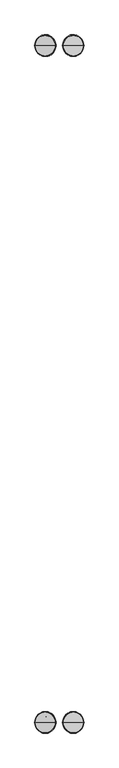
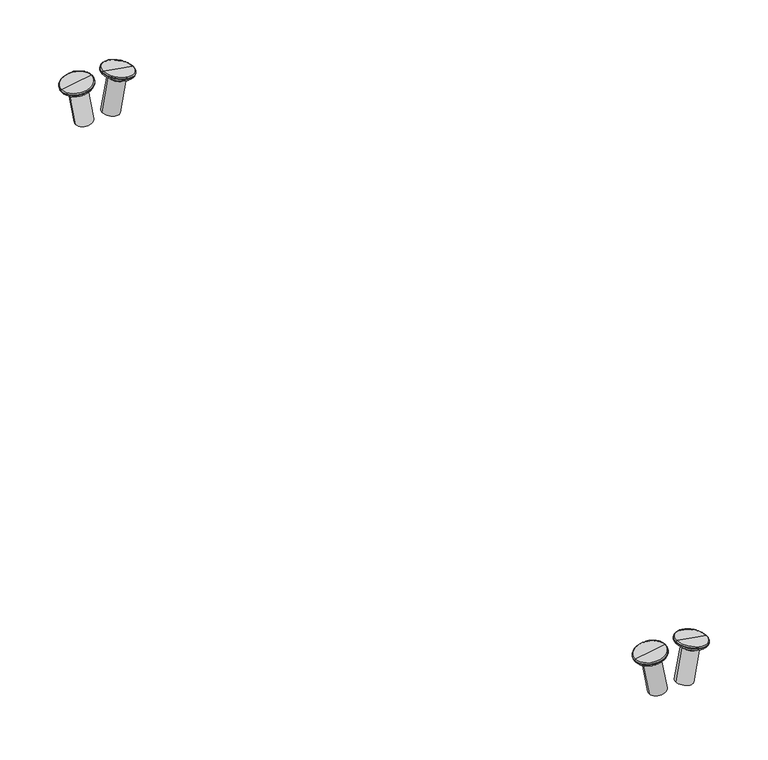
"""IFC4 building model written with IfcOpenShell, lengths in millimetres: proxy geometry, Kit Sunfix aero duo : Sunmodule Plus mono."""

from ifc_helpers import new_model, si_unit, point, frame, origin, place, context, project, spatial, circle_curve, ellipse_curve, trimmed, source, transform, mapped, element, save
from ifc_brep_helpers import plane_surface, cylinder_surface, revolved_surface, advanced_brep


def generic_models_753f09ff(model_context):
    return source(origin(), model_context, "Body", "AdvancedBrep", [
        advanced_brep(
        [(39.1763877, -550.0144087, 299.4223278), (6.8508247, -550.0144087, 305.1221968), (23.0136062, -550.0144087, 302.2722623), (39.9752239, -550.0144087, 298.2814714), (5.7099683, -550.0144087, 304.3233605), (39.8042139, -550.0144087, 297.3116251), (5.5389582, -550.0144087, 303.3535142), (37.5225011, -550.0144087, 295.7139527), (7.1366307, -550.0144087, 301.0718014), (30.735754, -550.0144087, 291.9519973), (12.2274224, -550.0144087, 295.2155155), (23.9957993, -550.0144087, 253.7278152), (5.4874678, -550.0144087, 256.9913334), (14.7416336, -550.0144087, 255.3595743)],
        [
            (0, 1, circle_curve(frame((23.0136062, -550.0144087, 302.2722623), z_axis=(0.17364817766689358, 0.0, 0.9848077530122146), x_axis=(-0.9848077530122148, 0.0, 0.1736481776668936)), 16.4121185)),
            (1, 2),
            (2, 0),
            (1, 0, circle_curve(frame((23.0136062, -550.0144087, 302.2722623), z_axis=(0.17364817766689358, 0.0, 0.9848077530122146), x_axis=(-0.9848077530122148, 0.0, 0.1736481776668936)), 16.4121185)),
            (3, 4, circle_curve(frame((22.8425961, -550.0144087, 301.302416), z_axis=(0.17364817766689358, 0.0, 0.9848077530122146), x_axis=(-0.9848077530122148, 0.0, 0.1736481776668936)), 17.3969262)),
            (4, 1, circle_curve(frame((6.8508247, -550.0144087, 303.9081227), z_axis=(0.0, 1.0000000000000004, 0.0), x_axis=(0.9396926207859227, 0.0, -0.34202014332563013)), 1.214074)),
            (0, 3, circle_curve(frame((38.7611499, -550.0144087, 298.2814714), z_axis=(0.0, 1.0000000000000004, 0.0), x_axis=(-1.0000000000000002, 0.0, 0.0)), 1.214074)),
            (4, 3, circle_curve(frame((22.8425961, -550.0144087, 301.302416), z_axis=(0.17364817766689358, 0.0, 0.9848077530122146), x_axis=(-0.9848077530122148, 0.0, 0.1736481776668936)), 17.3969262)),
            (5, 6, circle_curve(frame((22.671586, -550.0144087, 300.3325697), z_axis=(0.17364817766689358, 0.0, 0.9848077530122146), x_axis=(-0.9848077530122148, 0.0, 0.1736481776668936)), 17.3969262)),
            (6, 4),
            (3, 5),
            (6, 5, circle_curve(frame((22.671586, -550.0144087, 300.3325697), z_axis=(0.17364817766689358, 0.0, 0.9848077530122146), x_axis=(-0.9848077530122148, 0.0, 0.1736481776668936)), 17.3969262)),
            (7, 8, circle_curve(frame((22.3295659, -550.0144087, 298.392877), z_axis=(0.17364817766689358, 0.0, 0.9848077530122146), x_axis=(-0.9848077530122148, 0.0, 0.1736481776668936)), 15.4273107)),
            (8, 6, circle_curve(frame((7.2355424, -550.0144087, 302.8412677), z_axis=(0.0, 1.0000000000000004, 0.0), x_axis=(0.9396926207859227, 0.0, -0.34202014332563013)), 1.7722286)),
            (5, 7, circle_curve(frame((38.0347476, -550.0144087, 297.4105368), z_axis=(0.0, 1.0000000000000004, 0.0), x_axis=(-1.0000000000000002, 0.0, 0.0)), 1.7722286)),
            (8, 7, circle_curve(frame((22.3295659, -550.0144087, 298.392877), z_axis=(0.17364817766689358, 0.0, 0.9848077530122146), x_axis=(-0.9848077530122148, 0.0, 0.1736481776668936)), 15.4273107)),
            (9, 10, circle_curve(frame((21.4815882, -550.0144087, 293.5837564), z_axis=(0.17364817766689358, 0.0, 0.9848077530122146), x_axis=(-0.9848077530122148, 0.0, 0.1736481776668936)), 9.3969262)),
            (10, 8, circle_curve(frame((6.0660711, -550.0144087, 295.0003564), z_axis=(0.0, -1.0000000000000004, 0.0), x_axis=(0.9396926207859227, 0.0, -0.34202014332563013)), 6.1651069)),
            (7, 9, circle_curve(frame((36.4519415, -550.0144087, 289.6425076), z_axis=(0.0, -1.0000000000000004, 0.0), x_axis=(-1.0000000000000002, 0.0, 0.0)), 6.1651069)),
            (10, 9, circle_curve(frame((21.4815882, -550.0144087, 293.5837564), z_axis=(0.17364817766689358, 0.0, 0.9848077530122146), x_axis=(-0.9848077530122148, 0.0, 0.1736481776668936)), 9.3969262)),
            (11, 12, circle_curve(frame((14.7416336, -550.0144087, 255.3595743), z_axis=(0.17364817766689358, 0.0, 0.9848077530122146), x_axis=(-0.9848077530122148, 0.0, 0.1736481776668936)), 9.3969262)),
            (12, 10),
            (9, 11),
            (12, 11, circle_curve(frame((14.7416336, -550.0144087, 255.3595743), z_axis=(0.17364817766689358, 0.0, 0.9848077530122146), x_axis=(-0.9848077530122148, 0.0, 0.1736481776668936)), 9.3969262)),
            (13, 12),
            (11, 13),
        ],
        [
            plane_surface(frame((23.0136062, -550.0144087, 302.2722623), z_axis=(0.17364817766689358, 0.0, 0.9848077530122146), x_axis=(-0.9848077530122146, 0.0, 0.17364817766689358))),
            revolved_surface(trimmed(ellipse_curve(frame((6.8508247, -550.0144087, 303.9081227), z_axis=(0.0, -1.0000000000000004, 0.0), x_axis=(0.9396926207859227, 0.0, -0.34202014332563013)), 1.214074, 1.214074), [point((6.8508247, -550.0144087, 305.1221968))], [point((5.7099683, -550.0144087, 304.3233605))], True, "CARTESIAN"), (23.0136062, -550.0144087, 302.2722623), (-0.17364817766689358, 0.0, -0.9848077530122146)),
            revolved_surface(trimmed(ellipse_curve(frame((6.8508247, -550.0144087, 303.9081227), z_axis=(0.0, -1.0000000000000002, 0.0), x_axis=(0.9396926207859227, 0.0, -0.34202014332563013)), 1.214074, 1.214074), [point((6.8508247, -550.0144087, 305.1221968))], [point((5.7099683, -550.0144087, 304.3233605))], True, "CARTESIAN"), (23.0136062, -550.0144087, 302.2722623), (-0.17364817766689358, 0.0, -0.9848077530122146)),
            cylinder_surface(frame((23.0136062, -550.0144087, 302.2722623), z_axis=(-0.17364817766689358, 0.0, -0.9848077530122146), x_axis=(-0.9848077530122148, 0.0, 0.1736481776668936)), 17.3969262),
            revolved_surface(trimmed(ellipse_curve(frame((7.2355424, -550.0144087, 302.8412677), z_axis=(0.0, -1.0000000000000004, 0.0), x_axis=(0.9396926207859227, 0.0, -0.34202014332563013)), 1.7722286, 1.7722286), [point((5.5389582, -550.0144087, 303.3535142))], [point((7.1366307, -550.0144087, 301.0718014))], True, "CARTESIAN"), (23.0136062, -550.0144087, 302.2722623), (-0.17364817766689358, 0.0, -0.9848077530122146)),
            revolved_surface(trimmed(ellipse_curve(frame((7.2355424, -550.0144087, 302.8412677), z_axis=(0.0, -1.0000000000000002, 0.0), x_axis=(0.9396926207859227, 0.0, -0.34202014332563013)), 1.7722286, 1.7722286), [point((5.5389582, -550.0144087, 303.3535142))], [point((7.1366307, -550.0144087, 301.0718014))], True, "CARTESIAN"), (23.0136062, -550.0144087, 302.2722623), (-0.17364817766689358, 0.0, -0.9848077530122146)),
            revolved_surface(trimmed(ellipse_curve(frame((6.0660711, -550.0144087, 295.0003564), z_axis=(0.0, 1.0000000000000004, 0.0), x_axis=(0.9396926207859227, 0.0, -0.34202014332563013)), 6.1651069, 6.1651069), [point((7.1366307, -550.0144087, 301.0718014))], [point((12.2274224, -550.0144087, 295.2155155))], True, "CARTESIAN"), (23.0136062, -550.0144087, 302.2722623), (-0.17364817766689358, 0.0, -0.9848077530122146)),
            revolved_surface(trimmed(ellipse_curve(frame((6.0660711, -550.0144087, 295.0003564), z_axis=(0.0, 1.0000000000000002, 0.0), x_axis=(0.9396926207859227, 0.0, -0.34202014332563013)), 6.1651069, 6.1651069), [point((7.1366307, -550.0144087, 301.0718014))], [point((12.2274224, -550.0144087, 295.2155155))], True, "CARTESIAN"), (23.0136062, -550.0144087, 302.2722623), (-0.17364817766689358, 0.0, -0.9848077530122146)),
            cylinder_surface(frame((23.0136062, -550.0144087, 302.2722623), z_axis=(-0.17364817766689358, 0.0, -0.9848077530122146), x_axis=(-0.9848077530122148, 0.0, 0.1736481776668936)), 9.3969262),
            plane_surface(frame((14.7416336, -550.0144087, 255.3595743), z_axis=(-0.17364817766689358, 0.0, -0.9848077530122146), x_axis=(-0.9848077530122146, 0.0, 0.17364817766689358))),
        ],
        [
            (0, [[1, 2, 3]]),
            (0, [[4, -3, -2]]),
            (1, [[5, 6, -1, 7]]),
            (2, [[8, -7, -4, -6]]),
            (3, [[9, 10, -5, 11]]),
            (3, [[12, -11, -8, -10]]),
            (4, [[13, 14, -9, 15]]),
            (5, [[16, -15, -12, -14]]),
            (6, [[17, 18, -13, 19]]),
            (7, [[20, -19, -16, -18]]),
            (8, [[21, 22, -17, 23]]),
            (8, [[24, -23, -20, -22]]),
            (9, [[25, -21, 26]]),
            (9, [[-26, -24, -25]]),
        ],
    ),
        advanced_brep(
        [(23.0136062, 550.0144087, 302.2722623), (6.8508247, 550.0144087, 305.1221968), (39.1763877, 550.0144087, 299.4223278), (5.7099683, 550.0144087, 304.3233605), (39.9752239, 550.0144087, 298.2814714), (5.5389582, 550.0144087, 303.3535142), (39.8042139, 550.0144087, 297.3116251), (7.1366307, 550.0144087, 301.0718014), (37.5225011, 550.0144087, 295.7139527), (12.2274224, 550.0144087, 295.2155155), (30.735754, 550.0144087, 291.9519973), (5.498718, 550.0144087, 257.0551364), (24.0070495, 550.0144087, 253.7916182), (14.7528837, 550.0144087, 255.4233773)],
        [
            (0, 1),
            (1, 2, circle_curve(frame((23.0136062, 550.0144087, 302.2722623), z_axis=(0.17364817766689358, 0.0, 0.9848077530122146), x_axis=(-0.9848077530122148, 0.0, 0.1736481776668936)), 16.4121185)),
            (2, 0),
            (2, 1, circle_curve(frame((23.0136062, 550.0144087, 302.2722623), z_axis=(0.17364817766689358, 0.0, 0.9848077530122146), x_axis=(-0.9848077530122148, 0.0, 0.1736481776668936)), 16.4121185)),
            (1, 3, circle_curve(frame((6.8508247, 550.0144087, 303.9081227), z_axis=(0.0, -1.0000000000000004, 0.0), x_axis=(0.9396926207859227, 0.0, -0.34202014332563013)), 1.214074)),
            (3, 4, circle_curve(frame((22.8425961, 550.0144087, 301.302416), z_axis=(0.17364817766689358, 0.0, 0.9848077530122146), x_axis=(-0.9848077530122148, 0.0, 0.1736481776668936)), 17.3969262)),
            (4, 2, circle_curve(frame((38.7611499, 550.0144087, 298.2814714), z_axis=(0.0, -1.0000000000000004, 0.0), x_axis=(-1.0000000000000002, 0.0, 0.0)), 1.214074)),
            (4, 3, circle_curve(frame((22.8425961, 550.0144087, 301.302416), z_axis=(0.17364817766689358, 0.0, 0.9848077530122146), x_axis=(-0.9848077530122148, 0.0, 0.1736481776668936)), 17.3969262)),
            (3, 5),
            (5, 6, circle_curve(frame((22.671586, 550.0144087, 300.3325697), z_axis=(0.17364817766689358, 0.0, 0.9848077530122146), x_axis=(-0.9848077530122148, 0.0, 0.1736481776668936)), 17.3969262)),
            (6, 4),
            (6, 5, circle_curve(frame((22.671586, 550.0144087, 300.3325697), z_axis=(0.17364817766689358, 0.0, 0.9848077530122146), x_axis=(-0.9848077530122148, 0.0, 0.1736481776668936)), 17.3969262)),
            (5, 7, circle_curve(frame((7.2355424, 550.0144087, 302.8412677), z_axis=(0.0, -1.0000000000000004, 0.0), x_axis=(0.9396926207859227, 0.0, -0.34202014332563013)), 1.7722286)),
            (7, 8, circle_curve(frame((22.3295659, 550.0144087, 298.392877), z_axis=(0.17364817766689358, 0.0, 0.9848077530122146), x_axis=(-0.9848077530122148, 0.0, 0.1736481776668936)), 15.4273107)),
            (8, 6, circle_curve(frame((38.0347476, 550.0144087, 297.4105368), z_axis=(0.0, -1.0000000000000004, 0.0), x_axis=(-1.0000000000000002, 0.0, 0.0)), 1.7722286)),
            (8, 7, circle_curve(frame((22.3295659, 550.0144087, 298.392877), z_axis=(0.17364817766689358, 0.0, 0.9848077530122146), x_axis=(-0.9848077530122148, 0.0, 0.1736481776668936)), 15.4273107)),
            (7, 9, circle_curve(frame((6.0660711, 550.0144087, 295.0003564), z_axis=(0.0, 1.0000000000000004, 0.0), x_axis=(0.9396926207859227, 0.0, -0.34202014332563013)), 6.1651069)),
            (9, 10, circle_curve(frame((21.4815882, 550.0144087, 293.5837564), z_axis=(0.17364817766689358, 0.0, 0.9848077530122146), x_axis=(-0.9848077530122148, 0.0, 0.1736481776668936)), 9.3969262)),
            (10, 8, circle_curve(frame((36.4519415, 550.0144087, 289.6425076), z_axis=(0.0, 1.0000000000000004, 0.0), x_axis=(-1.0000000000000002, 0.0, 0.0)), 6.1651069)),
            (10, 9, circle_curve(frame((21.4815882, 550.0144087, 293.5837564), z_axis=(0.17364817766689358, 0.0, 0.9848077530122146), x_axis=(-0.9848077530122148, 0.0, 0.1736481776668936)), 9.3969262)),
            (9, 11),
            (11, 12, circle_curve(frame((14.7528837, 550.0144087, 255.4233773), z_axis=(0.17364817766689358, 0.0, 0.9848077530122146), x_axis=(-0.9848077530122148, 0.0, 0.1736481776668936)), 9.3969262)),
            (12, 10),
            (12, 11, circle_curve(frame((14.7528837, 550.0144087, 255.4233773), z_axis=(0.17364817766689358, 0.0, 0.9848077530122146), x_axis=(-0.9848077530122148, 0.0, 0.1736481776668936)), 9.3969262)),
            (11, 13),
            (13, 12),
        ],
        [
            plane_surface(frame((23.0136062, 550.0144087, 302.2722623), z_axis=(0.17364817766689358, 0.0, 0.9848077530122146), x_axis=(-0.9848077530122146, 0.0, 0.17364817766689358))),
            revolved_surface(trimmed(ellipse_curve(frame((6.8508247, 550.0144087, 303.9081227), z_axis=(0.0, 1.0000000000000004, 0.0), x_axis=(0.9396926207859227, 0.0, -0.34202014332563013)), 1.214074, 1.214074), [point((5.7099683, 550.0144087, 304.3233605))], [point((6.8508247, 550.0144087, 305.1221968))], True, "CARTESIAN"), (23.0136062, 550.0144087, 302.2722623), (0.17364817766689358, 0.0, 0.9848077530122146)),
            revolved_surface(trimmed(ellipse_curve(frame((6.8508247, 550.0144087, 303.9081227), z_axis=(0.0, 1.0000000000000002, 0.0), x_axis=(0.9396926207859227, 0.0, -0.34202014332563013)), 1.214074, 1.214074), [point((5.7099683, 550.0144087, 304.3233605))], [point((6.8508247, 550.0144087, 305.1221968))], True, "CARTESIAN"), (23.0136062, 550.0144087, 302.2722623), (0.17364817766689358, 0.0, 0.9848077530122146)),
            cylinder_surface(frame((23.0136062, 550.0144087, 302.2722623), z_axis=(0.17364817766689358, 0.0, 0.9848077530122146), x_axis=(-0.9848077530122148, 0.0, 0.1736481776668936)), 17.3969262),
            revolved_surface(trimmed(ellipse_curve(frame((7.2355424, 550.0144087, 302.8412677), z_axis=(0.0, 1.0000000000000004, 0.0), x_axis=(0.9396926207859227, 0.0, -0.34202014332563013)), 1.7722286, 1.7722286), [point((7.1366307, 550.0144087, 301.0718014))], [point((5.5389582, 550.0144087, 303.3535142))], True, "CARTESIAN"), (23.0136062, 550.0144087, 302.2722623), (0.17364817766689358, 0.0, 0.9848077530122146)),
            revolved_surface(trimmed(ellipse_curve(frame((7.2355424, 550.0144087, 302.8412677), z_axis=(0.0, 1.0000000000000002, 0.0), x_axis=(0.9396926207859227, 0.0, -0.34202014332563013)), 1.7722286, 1.7722286), [point((7.1366307, 550.0144087, 301.0718014))], [point((5.5389582, 550.0144087, 303.3535142))], True, "CARTESIAN"), (23.0136062, 550.0144087, 302.2722623), (0.17364817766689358, 0.0, 0.9848077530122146)),
            revolved_surface(trimmed(ellipse_curve(frame((6.0660711, 550.0144087, 295.0003564), z_axis=(0.0, -1.0000000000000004, 0.0), x_axis=(0.9396926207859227, 0.0, -0.34202014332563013)), 6.1651069, 6.1651069), [point((12.2274224, 550.0144087, 295.2155155))], [point((7.1366307, 550.0144087, 301.0718014))], True, "CARTESIAN"), (23.0136062, 550.0144087, 302.2722623), (0.17364817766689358, 0.0, 0.9848077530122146)),
            revolved_surface(trimmed(ellipse_curve(frame((6.0660711, 550.0144087, 295.0003564), z_axis=(0.0, -1.0000000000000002, 0.0), x_axis=(0.9396926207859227, 0.0, -0.34202014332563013)), 6.1651069, 6.1651069), [point((12.2274224, 550.0144087, 295.2155155))], [point((7.1366307, 550.0144087, 301.0718014))], True, "CARTESIAN"), (23.0136062, 550.0144087, 302.2722623), (0.17364817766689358, 0.0, 0.9848077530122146)),
            cylinder_surface(frame((23.0136062, 550.0144087, 302.2722623), z_axis=(0.17364817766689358, 0.0, 0.9848077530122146), x_axis=(-0.9848077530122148, 0.0, 0.1736481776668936)), 9.3969262),
            plane_surface(frame((14.7528837, 550.0144087, 255.4233773), z_axis=(-0.17364817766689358, 0.0, -0.9848077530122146), x_axis=(-0.9848077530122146, 0.0, 0.17364817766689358))),
        ],
        [
            (0, [[1, 2, 3]]),
            (0, [[-3, 4, -1]]),
            (1, [[-2, 5, 6, 7]]),
            (2, [[-4, -7, 8, -5]]),
            (3, [[-6, 9, 10, 11]]),
            (3, [[-8, -11, 12, -9]]),
            (4, [[-10, 13, 14, 15]]),
            (5, [[-12, -15, 16, -13]]),
            (6, [[-14, 17, 18, 19]]),
            (7, [[-16, -19, 20, -17]]),
            (8, [[-18, 21, 22, 23]]),
            (8, [[-20, -23, 24, -21]]),
            (9, [[-22, 25, 26]]),
            (9, [[-24, -26, -25]]),
        ],
    ),
        advanced_brep(
        [(-23.0136062, -550.0144087, 302.2722623), (-6.8508247, -550.0144087, 305.1221968), (-39.1763877, -550.0144087, 299.4223278), (-5.7099683, -550.0144087, 304.3233605), (-39.9752239, -550.0144087, 298.2814714), (-5.5389582, -550.0144087, 303.3535142), (-39.8042139, -550.0144087, 297.3116251), (-7.1366307, -550.0144087, 301.0718014), (-37.5225011, -550.0144087, 295.7139527), (-12.2274224, -550.0144087, 295.2155155), (-30.735754, -550.0144087, 291.9519973), (-5.4050596, -550.0144087, 256.5239734), (-23.9133912, -550.0144087, 253.2604552), (-14.6592254, -550.0144087, 254.8922143)],
        [
            (0, 1),
            (1, 2, circle_curve(frame((-23.0136062, -550.0144087, 302.2722623), z_axis=(-0.17364817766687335, 0.0, 0.9848077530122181), x_axis=(0.9848077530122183, 0.0, 0.17364817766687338)), 16.4121185)),
            (2, 0),
            (2, 1, circle_curve(frame((-23.0136062, -550.0144087, 302.2722623), z_axis=(-0.17364817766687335, 0.0, 0.9848077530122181), x_axis=(0.9848077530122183, 0.0, 0.17364817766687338)), 16.4121185)),
            (1, 3, circle_curve(frame((-6.8508247, -550.0144087, 303.9081227), z_axis=(0.0, 1.0000000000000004, 0.0), x_axis=(-0.9396926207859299, 0.0, -0.3420201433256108)), 1.214074)),
            (3, 4, circle_curve(frame((-22.8425961, -550.0144087, 301.302416), z_axis=(-0.17364817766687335, 0.0, 0.9848077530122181), x_axis=(0.9848077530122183, 0.0, 0.17364817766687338)), 17.3969262)),
            (4, 2, circle_curve(frame((-38.7611499, -550.0144087, 298.2814714), z_axis=(0.0, 1.0000000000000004, 0.0), x_axis=(1.0000000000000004, 0.0, 0.0)), 1.214074)),
            (4, 3, circle_curve(frame((-22.8425961, -550.0144087, 301.302416), z_axis=(-0.17364817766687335, 0.0, 0.9848077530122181), x_axis=(0.9848077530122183, 0.0, 0.17364817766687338)), 17.3969262)),
            (3, 5),
            (5, 6, circle_curve(frame((-22.671586, -550.0144087, 300.3325697), z_axis=(-0.17364817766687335, 0.0, 0.9848077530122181), x_axis=(0.9848077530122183, 0.0, 0.17364817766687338)), 17.3969262)),
            (6, 4),
            (6, 5, circle_curve(frame((-22.671586, -550.0144087, 300.3325697), z_axis=(-0.17364817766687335, 0.0, 0.9848077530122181), x_axis=(0.9848077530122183, 0.0, 0.17364817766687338)), 17.3969262)),
            (5, 7, circle_curve(frame((-7.2355424, -550.0144087, 302.8412677), z_axis=(0.0, 1.0000000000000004, 0.0), x_axis=(-0.9396926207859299, 0.0, -0.3420201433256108)), 1.7722286)),
            (7, 8, circle_curve(frame((-22.3295659, -550.0144087, 298.392877), z_axis=(-0.17364817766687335, 0.0, 0.9848077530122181), x_axis=(0.9848077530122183, 0.0, 0.17364817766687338)), 15.4273107)),
            (8, 6, circle_curve(frame((-38.0347476, -550.0144087, 297.4105368), z_axis=(0.0, 1.0000000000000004, 0.0), x_axis=(1.0000000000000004, 0.0, 0.0)), 1.7722286)),
            (8, 7, circle_curve(frame((-22.3295659, -550.0144087, 298.392877), z_axis=(-0.17364817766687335, 0.0, 0.9848077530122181), x_axis=(0.9848077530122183, 0.0, 0.17364817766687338)), 15.4273107)),
            (7, 9, circle_curve(frame((-6.0660711, -550.0144087, 295.0003564), z_axis=(0.0, -1.0000000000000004, 0.0), x_axis=(-0.9396926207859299, 0.0, -0.3420201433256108)), 6.1651069)),
            (9, 10, circle_curve(frame((-21.4815882, -550.0144087, 293.5837564), z_axis=(-0.17364817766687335, 0.0, 0.9848077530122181), x_axis=(0.9848077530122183, 0.0, 0.17364817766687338)), 9.3969262)),
            (10, 8, circle_curve(frame((-36.4519415, -550.0144087, 289.6425076), z_axis=(0.0, -1.0000000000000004, 0.0), x_axis=(1.0000000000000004, 0.0, 0.0)), 6.1651069)),
            (10, 9, circle_curve(frame((-21.4815882, -550.0144087, 293.5837564), z_axis=(-0.17364817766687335, 0.0, 0.9848077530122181), x_axis=(0.9848077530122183, 0.0, 0.17364817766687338)), 9.3969262)),
            (9, 11),
            (11, 12, circle_curve(frame((-14.6592254, -550.0144087, 254.8922143), z_axis=(-0.17364817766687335, 0.0, 0.9848077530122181), x_axis=(0.9848077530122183, 0.0, 0.17364817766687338)), 9.3969262)),
            (12, 10),
            (12, 11, circle_curve(frame((-14.6592254, -550.0144087, 254.8922143), z_axis=(-0.17364817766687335, 0.0, 0.9848077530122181), x_axis=(0.9848077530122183, 0.0, 0.17364817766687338)), 9.3969262)),
            (11, 13),
            (13, 12),
        ],
        [
            plane_surface(frame((-23.0136062, -550.0144087, 302.2722623), z_axis=(-0.17364817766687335, 0.0, 0.9848077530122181), x_axis=(0.9848077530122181, 0.0, 0.17364817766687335))),
            revolved_surface(trimmed(ellipse_curve(frame((-6.8508247, -550.0144087, 303.9081227), z_axis=(0.0, -1.0000000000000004, 0.0), x_axis=(-0.9396926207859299, 0.0, -0.3420201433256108)), 1.214074, 1.214074), [point((-5.7099683, -550.0144087, 304.3233605))], [point((-6.8508247, -550.0144087, 305.1221968))], True, "CARTESIAN"), (-23.0136062, -550.0144087, 302.2722623), (-0.17364817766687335, 0.0, 0.9848077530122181)),
            revolved_surface(trimmed(ellipse_curve(frame((-6.8508247, -550.0144087, 303.9081227), z_axis=(0.0, -1.0000000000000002, 0.0), x_axis=(-0.9396926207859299, 0.0, -0.3420201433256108)), 1.214074, 1.214074), [point((-5.7099683, -550.0144087, 304.3233605))], [point((-6.8508247, -550.0144087, 305.1221968))], True, "CARTESIAN"), (-23.0136062, -550.0144087, 302.2722623), (-0.17364817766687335, 0.0, 0.9848077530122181)),
            cylinder_surface(frame((-23.0136062, -550.0144087, 302.2722623), z_axis=(-0.17364817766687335, 0.0, 0.9848077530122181), x_axis=(0.9848077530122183, 0.0, 0.17364817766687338)), 17.3969262),
            revolved_surface(trimmed(ellipse_curve(frame((-7.2355424, -550.0144087, 302.8412677), z_axis=(0.0, -1.0000000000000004, 0.0), x_axis=(-0.9396926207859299, 0.0, -0.3420201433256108)), 1.7722286, 1.7722286), [point((-7.1366307, -550.0144087, 301.0718014))], [point((-5.5389582, -550.0144087, 303.3535142))], True, "CARTESIAN"), (-23.0136062, -550.0144087, 302.2722623), (-0.17364817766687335, 0.0, 0.9848077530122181)),
            revolved_surface(trimmed(ellipse_curve(frame((-7.2355424, -550.0144087, 302.8412677), z_axis=(0.0, -1.0000000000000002, 0.0), x_axis=(-0.9396926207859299, 0.0, -0.3420201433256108)), 1.7722286, 1.7722286), [point((-7.1366307, -550.0144087, 301.0718014))], [point((-5.5389582, -550.0144087, 303.3535142))], True, "CARTESIAN"), (-23.0136062, -550.0144087, 302.2722623), (-0.17364817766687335, 0.0, 0.9848077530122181)),
            revolved_surface(trimmed(ellipse_curve(frame((-6.0660711, -550.0144087, 295.0003564), z_axis=(0.0, 1.0000000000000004, 0.0), x_axis=(-0.9396926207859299, 0.0, -0.3420201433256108)), 6.1651069, 6.1651069), [point((-12.2274224, -550.0144087, 295.2155155))], [point((-7.1366307, -550.0144087, 301.0718014))], True, "CARTESIAN"), (-23.0136062, -550.0144087, 302.2722623), (-0.17364817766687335, 0.0, 0.9848077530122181)),
            revolved_surface(trimmed(ellipse_curve(frame((-6.0660711, -550.0144087, 295.0003564), z_axis=(0.0, 1.0000000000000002, 0.0), x_axis=(-0.9396926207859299, 0.0, -0.3420201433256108)), 6.1651069, 6.1651069), [point((-12.2274224, -550.0144087, 295.2155155))], [point((-7.1366307, -550.0144087, 301.0718014))], True, "CARTESIAN"), (-23.0136062, -550.0144087, 302.2722623), (-0.17364817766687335, 0.0, 0.9848077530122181)),
            cylinder_surface(frame((-23.0136062, -550.0144087, 302.2722623), z_axis=(-0.17364817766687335, 0.0, 0.9848077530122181), x_axis=(0.9848077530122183, 0.0, 0.17364817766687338)), 9.3969262),
            plane_surface(frame((-14.6592254, -550.0144087, 254.8922143), z_axis=(0.17364817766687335, 0.0, -0.9848077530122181), x_axis=(0.9848077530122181, 0.0, 0.17364817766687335))),
        ],
        [
            (0, [[1, 2, 3]]),
            (0, [[-3, 4, -1]]),
            (1, [[-2, 5, 6, 7]]),
            (2, [[-4, -7, 8, -5]]),
            (3, [[-6, 9, 10, 11]]),
            (3, [[-8, -11, 12, -9]]),
            (4, [[-10, 13, 14, 15]]),
            (5, [[-12, -15, 16, -13]]),
            (6, [[-14, 17, 18, 19]]),
            (7, [[-16, -19, 20, -17]]),
            (8, [[-18, 21, 22, 23]]),
            (8, [[-20, -23, 24, -21]]),
            (9, [[-22, 25, 26]]),
            (9, [[-24, -26, -25]]),
        ],
    ),
        advanced_brep(
        [(-39.1763877, 550.0144087, 299.4223278), (-6.8508247, 550.0144087, 305.1221968), (-23.0136062, 550.0144087, 302.2722623), (-39.9752239, 550.0144087, 298.2814714), (-5.7099683, 550.0144087, 304.3233605), (-39.8042139, 550.0144087, 297.3116251), (-5.5389582, 550.0144087, 303.3535142), (-37.5225011, 550.0144087, 295.7139527), (-7.1366307, 550.0144087, 301.0718014), (-30.735754, 550.0144087, 291.9519973), (-12.2274224, 550.0144087, 295.2155155), (-23.9101482, 550.0144087, 253.2420632), (-5.4018166, 550.0144087, 256.5055814), (-14.6559824, 550.0144087, 254.8738223)],
        [
            (0, 1, circle_curve(frame((-23.0136062, 550.0144087, 302.2722623), z_axis=(-0.17364817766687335, 0.0, 0.9848077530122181), x_axis=(0.9848077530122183, 0.0, 0.17364817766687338)), 16.4121185)),
            (1, 2),
            (2, 0),
            (1, 0, circle_curve(frame((-23.0136062, 550.0144087, 302.2722623), z_axis=(-0.17364817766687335, 0.0, 0.9848077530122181), x_axis=(0.9848077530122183, 0.0, 0.17364817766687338)), 16.4121185)),
            (3, 4, circle_curve(frame((-22.8425961, 550.0144087, 301.302416), z_axis=(-0.17364817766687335, 0.0, 0.9848077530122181), x_axis=(0.9848077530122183, 0.0, 0.17364817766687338)), 17.3969262)),
            (4, 1, circle_curve(frame((-6.8508247, 550.0144087, 303.9081227), z_axis=(0.0, -1.0000000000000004, 0.0), x_axis=(-0.9396926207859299, 0.0, -0.3420201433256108)), 1.214074)),
            (0, 3, circle_curve(frame((-38.7611499, 550.0144087, 298.2814714), z_axis=(0.0, -1.0000000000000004, 0.0), x_axis=(1.0000000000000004, 0.0, 0.0)), 1.214074)),
            (4, 3, circle_curve(frame((-22.8425961, 550.0144087, 301.302416), z_axis=(-0.17364817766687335, 0.0, 0.9848077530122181), x_axis=(0.9848077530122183, 0.0, 0.17364817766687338)), 17.3969262)),
            (5, 6, circle_curve(frame((-22.671586, 550.0144087, 300.3325697), z_axis=(-0.17364817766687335, 0.0, 0.9848077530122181), x_axis=(0.9848077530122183, 0.0, 0.17364817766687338)), 17.3969262)),
            (6, 4),
            (3, 5),
            (6, 5, circle_curve(frame((-22.671586, 550.0144087, 300.3325697), z_axis=(-0.17364817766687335, 0.0, 0.9848077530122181), x_axis=(0.9848077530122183, 0.0, 0.17364817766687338)), 17.3969262)),
            (7, 8, circle_curve(frame((-22.3295659, 550.0144087, 298.392877), z_axis=(-0.17364817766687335, 0.0, 0.9848077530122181), x_axis=(0.9848077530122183, 0.0, 0.17364817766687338)), 15.4273107)),
            (8, 6, circle_curve(frame((-7.2355424, 550.0144087, 302.8412677), z_axis=(0.0, -1.0000000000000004, 0.0), x_axis=(-0.9396926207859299, 0.0, -0.3420201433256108)), 1.7722286)),
            (5, 7, circle_curve(frame((-38.0347476, 550.0144087, 297.4105368), z_axis=(0.0, -1.0000000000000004, 0.0), x_axis=(1.0000000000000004, 0.0, 0.0)), 1.7722286)),
            (8, 7, circle_curve(frame((-22.3295659, 550.0144087, 298.392877), z_axis=(-0.17364817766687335, 0.0, 0.9848077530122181), x_axis=(0.9848077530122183, 0.0, 0.17364817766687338)), 15.4273107)),
            (9, 10, circle_curve(frame((-21.4815882, 550.0144087, 293.5837564), z_axis=(-0.17364817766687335, 0.0, 0.9848077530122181), x_axis=(0.9848077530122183, 0.0, 0.17364817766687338)), 9.3969262)),
            (10, 8, circle_curve(frame((-6.0660711, 550.0144087, 295.0003564), z_axis=(0.0, 1.0000000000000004, 0.0), x_axis=(-0.9396926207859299, 0.0, -0.3420201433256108)), 6.1651069)),
            (7, 9, circle_curve(frame((-36.4519415, 550.0144087, 289.6425076), z_axis=(0.0, 1.0000000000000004, 0.0), x_axis=(1.0000000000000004, 0.0, 0.0)), 6.1651069)),
            (10, 9, circle_curve(frame((-21.4815882, 550.0144087, 293.5837564), z_axis=(-0.17364817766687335, 0.0, 0.9848077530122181), x_axis=(0.9848077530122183, 0.0, 0.17364817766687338)), 9.3969262)),
            (11, 12, circle_curve(frame((-14.6559824, 550.0144087, 254.8738223), z_axis=(-0.17364817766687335, 0.0, 0.9848077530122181), x_axis=(0.9848077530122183, 0.0, 0.17364817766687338)), 9.3969262)),
            (12, 10),
            (9, 11),
            (12, 11, circle_curve(frame((-14.6559824, 550.0144087, 254.8738223), z_axis=(-0.17364817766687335, 0.0, 0.9848077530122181), x_axis=(0.9848077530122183, 0.0, 0.17364817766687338)), 9.3969262)),
            (13, 12),
            (11, 13),
        ],
        [
            plane_surface(frame((-23.0136062, 550.0144087, 302.2722623), z_axis=(-0.17364817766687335, 0.0, 0.9848077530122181), x_axis=(0.9848077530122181, 0.0, 0.17364817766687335))),
            revolved_surface(trimmed(ellipse_curve(frame((-6.8508247, 550.0144087, 303.9081227), z_axis=(0.0, 1.0000000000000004, 0.0), x_axis=(-0.9396926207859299, 0.0, -0.3420201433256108)), 1.214074, 1.214074), [point((-6.8508247, 550.0144087, 305.1221968))], [point((-5.7099683, 550.0144087, 304.3233605))], True, "CARTESIAN"), (-23.0136062, 550.0144087, 302.2722623), (0.17364817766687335, 0.0, -0.9848077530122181)),
            revolved_surface(trimmed(ellipse_curve(frame((-6.8508247, 550.0144087, 303.9081227), z_axis=(0.0, 1.0000000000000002, 0.0), x_axis=(-0.9396926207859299, 0.0, -0.3420201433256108)), 1.214074, 1.214074), [point((-6.8508247, 550.0144087, 305.1221968))], [point((-5.7099683, 550.0144087, 304.3233605))], True, "CARTESIAN"), (-23.0136062, 550.0144087, 302.2722623), (0.17364817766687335, 0.0, -0.9848077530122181)),
            cylinder_surface(frame((-23.0136062, 550.0144087, 302.2722623), z_axis=(0.17364817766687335, 0.0, -0.9848077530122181), x_axis=(0.9848077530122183, 0.0, 0.17364817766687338)), 17.3969262),
            revolved_surface(trimmed(ellipse_curve(frame((-7.2355424, 550.0144087, 302.8412677), z_axis=(0.0, 1.0000000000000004, 0.0), x_axis=(-0.9396926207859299, 0.0, -0.3420201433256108)), 1.7722286, 1.7722286), [point((-5.5389582, 550.0144087, 303.3535142))], [point((-7.1366307, 550.0144087, 301.0718014))], True, "CARTESIAN"), (-23.0136062, 550.0144087, 302.2722623), (0.17364817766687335, 0.0, -0.9848077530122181)),
            revolved_surface(trimmed(ellipse_curve(frame((-7.2355424, 550.0144087, 302.8412677), z_axis=(0.0, 1.0000000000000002, 0.0), x_axis=(-0.9396926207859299, 0.0, -0.3420201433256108)), 1.7722286, 1.7722286), [point((-5.5389582, 550.0144087, 303.3535142))], [point((-7.1366307, 550.0144087, 301.0718014))], True, "CARTESIAN"), (-23.0136062, 550.0144087, 302.2722623), (0.17364817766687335, 0.0, -0.9848077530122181)),
            revolved_surface(trimmed(ellipse_curve(frame((-6.0660711, 550.0144087, 295.0003564), z_axis=(0.0, -1.0000000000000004, 0.0), x_axis=(-0.9396926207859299, 0.0, -0.3420201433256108)), 6.1651069, 6.1651069), [point((-7.1366307, 550.0144087, 301.0718014))], [point((-12.2274224, 550.0144087, 295.2155155))], True, "CARTESIAN"), (-23.0136062, 550.0144087, 302.2722623), (0.17364817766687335, 0.0, -0.9848077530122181)),
            revolved_surface(trimmed(ellipse_curve(frame((-6.0660711, 550.0144087, 295.0003564), z_axis=(0.0, -1.0000000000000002, 0.0), x_axis=(-0.9396926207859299, 0.0, -0.3420201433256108)), 6.1651069, 6.1651069), [point((-7.1366307, 550.0144087, 301.0718014))], [point((-12.2274224, 550.0144087, 295.2155155))], True, "CARTESIAN"), (-23.0136062, 550.0144087, 302.2722623), (0.17364817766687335, 0.0, -0.9848077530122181)),
            cylinder_surface(frame((-23.0136062, 550.0144087, 302.2722623), z_axis=(0.17364817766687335, 0.0, -0.9848077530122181), x_axis=(0.9848077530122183, 0.0, 0.17364817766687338)), 9.3969262),
            plane_surface(frame((-14.6559824, 550.0144087, 254.8738223), z_axis=(0.17364817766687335, 0.0, -0.9848077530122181), x_axis=(0.9848077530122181, 0.0, 0.17364817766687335))),
        ],
        [
            (0, [[1, 2, 3]]),
            (0, [[4, -3, -2]]),
            (1, [[5, 6, -1, 7]]),
            (2, [[8, -7, -4, -6]]),
            (3, [[9, 10, -5, 11]]),
            (3, [[12, -11, -8, -10]]),
            (4, [[13, 14, -9, 15]]),
            (5, [[16, -15, -12, -14]]),
            (6, [[17, 18, -13, 19]]),
            (7, [[20, -19, -16, -18]]),
            (8, [[21, 22, -17, 23]]),
            (8, [[24, -23, -20, -22]]),
            (9, [[25, -21, 26]]),
            (9, [[-26, -24, -25]]),
        ],
    ),
    ])


if __name__ == "__main__":
    model = new_model("IFC4")
    model_context = context("Model", 3, world=origin())
    ifc_project = project(units=[si_unit("LENGTHUNIT", "METRE", prefix="MILLI")], contexts=[model_context])
    site = spatial("IfcSite", under=ifc_project)
    building = spatial("IfcBuilding", under=site)
    placement = place(None, origin())
    generic_models_shape = generic_models_753f09ff(model_context)
    element("IfcBuildingElementProxy", 1, Name="Kit Sunfix aero duo : Sunmodule Plus mono", ObjectType="Kit Sunfix aero duo : Sunmodule Plus mono", at=placement, inside=building, context=model_context, shape_type="MappedRepresentation", body=[
        mapped(generic_models_shape, transform((0.0, 0.0, 0.0), x_axis=(1.0, 0.0, 0.0), y_axis=(0.0, 1.0, 0.0), z_axis=(0.0, 0.0, 1.0))),
    ])
    save(model, "model.ifc")
